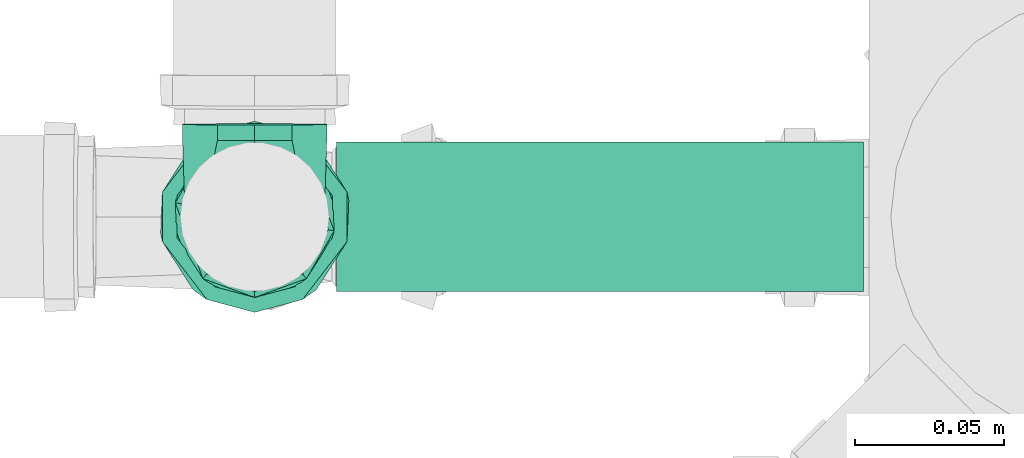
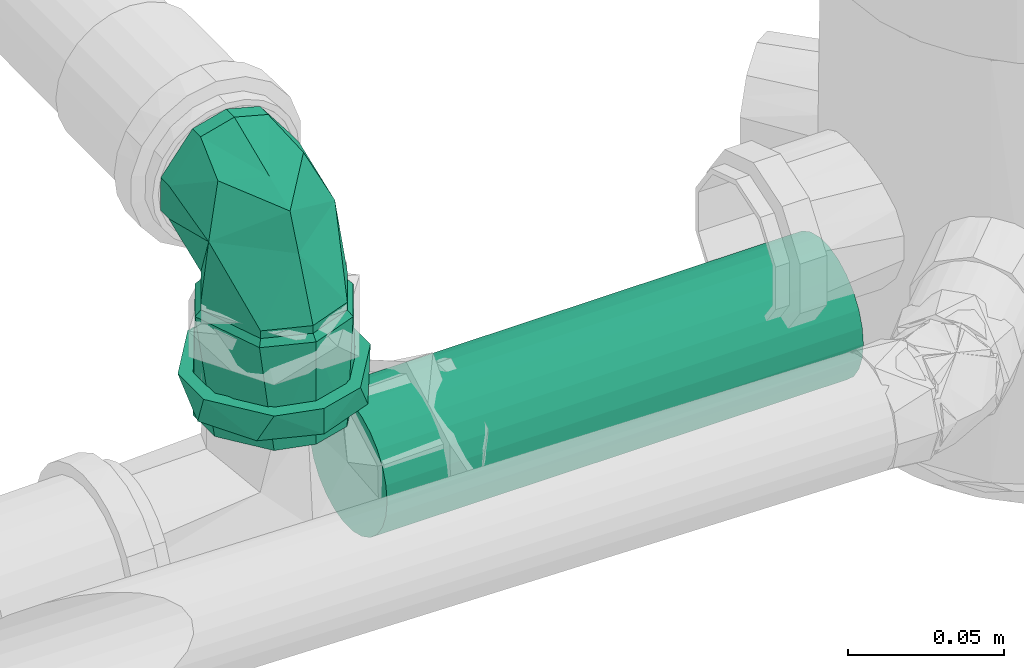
# One storey, part 258 of 589: 1 flow fitting, 1 flow segment.
"""IFC2X3 building model written with IfcOpenShell, lengths in millimetres."""

from ifc_helpers import new_model, entity, si_unit, converted_unit, derived_unit, direction, frame, frame_2d, origin, place, context, subcontext, project, spatial, circle, extrude, faceted_brep, source, transform, mapped, material, type_object, type_shapes, element, save


model = new_model("IFC2X3")

# Units and contexts
model_context = context("Model", 3, precision=0.01, world=origin(), true_north=direction((6.123031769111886e-17, 1.0)))
body_context = subcontext(model_context, "Body", "Model", "MODEL_VIEW")
ifc_project = project(units=[si_unit("LENGTHUNIT", "METRE", prefix="MILLI"), si_unit("AREAUNIT", "SQUARE_METRE"), si_unit("VOLUMEUNIT", "CUBIC_METRE"), converted_unit("PLANEANGLEUNIT", "DEGREE", entity("IfcRatioMeasure", 0.017453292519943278), si_unit("PLANEANGLEUNIT", "RADIAN"), dimensions=[0, 0, 0, 0, 0, 0, 0]), si_unit("MASSUNIT", "GRAM", prefix="KILO"), derived_unit("MASSDENSITYUNIT", [(si_unit("MASSUNIT", "GRAM", prefix="KILO"), 1), (si_unit("LENGTHUNIT", "METRE"), -3)]), derived_unit("IONCONCENTRATIONUNIT", [(si_unit("MASSUNIT", "GRAM", prefix="KILO"), 1), (si_unit("LENGTHUNIT", "METRE"), -3)]), derived_unit("MOMENTOFINERTIAUNIT", [(si_unit("LENGTHUNIT", "METRE"), 4)]), si_unit("TIMEUNIT", "SECOND"), si_unit("FREQUENCYUNIT", "HERTZ"), si_unit("THERMODYNAMICTEMPERATUREUNIT", "DEGREE_CELSIUS"), derived_unit("THERMALTRANSMITTANCEUNIT", [(si_unit("MASSUNIT", "GRAM", prefix="KILO"), 1), (si_unit("THERMODYNAMICTEMPERATUREUNIT", "KELVIN"), -1), (si_unit("TIMEUNIT", "SECOND"), -3)]), derived_unit("THERMALCONDUCTANCEUNIT", [(si_unit("MASSUNIT", "GRAM", prefix="KILO"), 1), (si_unit("THERMODYNAMICTEMPERATUREUNIT", "KELVIN"), -1), (si_unit("TIMEUNIT", "SECOND"), -3), (si_unit("LENGTHUNIT", "METRE"), 1)]), derived_unit("VOLUMETRICFLOWRATEUNIT", [(si_unit("LENGTHUNIT", "METRE"), 3), (si_unit("TIMEUNIT", "SECOND"), -1)]), derived_unit("MASSFLOWRATEUNIT", [(si_unit("MASSUNIT", "GRAM", prefix="KILO"), 1), (si_unit("TIMEUNIT", "SECOND"), -1)]), derived_unit("ROTATIONALFREQUENCYUNIT", [(si_unit("TIMEUNIT", "SECOND"), -1)]), si_unit("ELECTRICCURRENTUNIT", "AMPERE"), si_unit("ELECTRICVOLTAGEUNIT", "VOLT"), si_unit("POWERUNIT", "WATT"), si_unit("FORCEUNIT", "NEWTON", prefix="KILO"), si_unit("ILLUMINANCEUNIT", "LUX"), si_unit("LUMINOUSFLUXUNIT", "LUMEN"), si_unit("LUMINOUSINTENSITYUNIT", "CANDELA"), derived_unit("USERDEFINED", [(si_unit("MASSUNIT", "GRAM", prefix="KILO"), -1), (si_unit("LENGTHUNIT", "METRE"), -2), (si_unit("TIMEUNIT", "SECOND"), 3), (si_unit("LUMINOUSFLUXUNIT", "LUMEN"), 1)]), derived_unit("USERDEFINED", [(si_unit("MASSUNIT", "GRAM", prefix="KILO"), 1), (si_unit("TIMEUNIT", "SECOND"), -3), (si_unit("LENGTHUNIT", "METRE"), 3), (si_unit("ELECTRICCURRENTUNIT", "AMPERE"), -2)]), derived_unit("SOUNDPOWERUNIT", [(si_unit("MASSUNIT", "GRAM", prefix="KILO"), 1), (si_unit("TIMEUNIT", "SECOND"), -3), (si_unit("LENGTHUNIT", "METRE"), 2)]), derived_unit("SOUNDPRESSUREUNIT", [(si_unit("MASSUNIT", "GRAM", prefix="KILO"), 1), (si_unit("LENGTHUNIT", "METRE"), -1), (si_unit("TIMEUNIT", "SECOND"), -2)]), derived_unit("LINEARVELOCITYUNIT", [(si_unit("LENGTHUNIT", "METRE"), 1), (si_unit("TIMEUNIT", "SECOND"), -1)]), si_unit("PRESSUREUNIT", "PASCAL"), derived_unit("USERDEFINED", [(si_unit("MASSUNIT", "GRAM", prefix="KILO"), 1), (si_unit("LENGTHUNIT", "METRE"), -2), (si_unit("TIMEUNIT", "SECOND"), -2)]), derived_unit("LINEARFORCEUNIT", [(si_unit("MASSUNIT", "GRAM", prefix="KILO"), 1), (si_unit("TIMEUNIT", "SECOND"), -2)]), derived_unit("PLANARFORCEUNIT", [(si_unit("MASSUNIT", "GRAM", prefix="KILO"), 1), (si_unit("LENGTHUNIT", "METRE"), -1), (si_unit("TIMEUNIT", "SECOND"), -2)]), derived_unit("SPECIFICHEATCAPACITYUNIT", [(si_unit("THERMODYNAMICTEMPERATUREUNIT", "KELVIN"), -1), (si_unit("LENGTHUNIT", "METRE"), 2), (si_unit("TIMEUNIT", "SECOND"), -2)]), derived_unit("HEATINGVALUEUNIT", [(si_unit("LENGTHUNIT", "METRE"), 2), (si_unit("TIMEUNIT", "SECOND"), -2)]), derived_unit("VAPORPERMEABILITYUNIT", [(si_unit("LENGTHUNIT", "METRE"), -1), (si_unit("TIMEUNIT", "SECOND"), 1)]), derived_unit("DYNAMICVISCOSITYUNIT", [(si_unit("MASSUNIT", "GRAM", prefix="KILO"), 1), (si_unit("TIMEUNIT", "SECOND"), -1), (si_unit("LENGTHUNIT", "METRE"), -1)]), derived_unit("THERMALEXPANSIONCOEFFICIENTUNIT", [(si_unit("THERMODYNAMICTEMPERATUREUNIT", "KELVIN"), -1)]), derived_unit("MODULUSOFELASTICITYUNIT", [(si_unit("MASSUNIT", "GRAM", prefix="KILO"), 1), (si_unit("LENGTHUNIT", "METRE"), -1), (si_unit("TIMEUNIT", "SECOND"), -2)]), derived_unit("ISOTHERMALMOISTURECAPACITYUNIT", [(si_unit("LENGTHUNIT", "METRE"), 3), (si_unit("MASSUNIT", "GRAM", prefix="KILO"), -1)]), derived_unit("MOISTUREDIFFUSIVITYUNIT", [(si_unit("TIMEUNIT", "SECOND"), -1), (si_unit("LENGTHUNIT", "METRE"), 2)])], contexts=[model_context])

# Site, building, storey
site_placement = place(None, origin())
site = spatial("IfcSite", under=ifc_project, at=site_placement, Name="Default", CompositionType="ELEMENT")
building_placement = place(site_placement, origin())
building = spatial("IfcBuilding", under=site, at=building_placement, CompositionType="ELEMENT")
storey_placement = place(building_placement, frame((0.0, 0.0, 100.0)))
storey = spatial("IfcBuildingStorey", under=building, at=storey_placement, Name="TÉRREO", CompositionType="ELEMENT", Elevation=100.0)

# Flow segment
pipe_segment_type = type_object("IfcPipeSegmentType", Name="Tipos de tubos:PVC Esgoto Série Normal", PredefinedType="NOTDEFINED")
flow_segment_placement = place(storey_placement, origin())
element("IfcFlowSegment", 1, at=flow_segment_placement, inside=storey, type_object=pipe_segment_type, Name="Tipos de tubos:PVC Esgoto Série Normal", ObjectType="Tipos de tubos:PVC Esgoto Série Normal", context=body_context, shape_type="SweptSolid", body=[
    extrude(circle(Radius=25.0, at=frame_2d((0.0, -1.6919798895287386e-14), x_axis=(1.0, 0.0))), frame((2348.9296518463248, 3355.620457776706, -219.30453914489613), z_axis=(1.0, 0.0, 0.0), x_axis=(0.0, 1.0, 0.0)), (0.0, 0.0, 1.0), 176.3990755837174),
])

# Flow fitting
ifc_material = material(Name="PVC Série Normal")
pipe_fitting_type = type_object("IfcPipeFittingType", Name="PVC Esgoto_Joelho 45_90_Rodrigo MEP:a. Série Normal", PredefinedType="NOTDEFINED", material=ifc_material)
shared_shape = source(origin(), body_context, "Body", "Brep", [
    faceted_brep([(-6.212752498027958, 25.804714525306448, 24.14814565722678), (-21.392152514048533, 25.95650852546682, 12.500000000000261), (-24.741349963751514, 25.990000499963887, 0.0), (-21.392152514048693, 25.956508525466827, -12.499999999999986), (-6.21275249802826, 25.804714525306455, -24.1481456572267), (6.727552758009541, 25.675311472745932, -24.14814565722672), (21.906952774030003, 25.52351747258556, -12.500000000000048), (25.256150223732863, 25.490025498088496, 0.0), (21.906952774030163, 25.52351747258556, 12.499999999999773), (6.7275527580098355, 25.675311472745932, 24.148145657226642), (25.308147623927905, 30.689765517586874, 0.0), (21.958950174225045, 30.72325749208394, -12.500000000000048), (6.779550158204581, 30.87505149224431, -24.14814565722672), (-6.160755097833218, 31.004454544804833, -24.1481456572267), (-21.34015511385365, 31.156248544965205, -12.499999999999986), (-24.689352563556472, 31.18974051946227, 0.0), (-21.340155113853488, 31.1562485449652, 12.500000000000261), (-6.160755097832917, 31.00445454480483, 24.14814565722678), (6.779550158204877, 30.87505149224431, 24.148145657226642), (21.958950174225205, 30.72325749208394, 12.499999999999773)], [[[0, 1, 2, 3, 4, 5, 6, 7, 8, 9]], [[10, 11, 12, 13, 14, 15, 16, 17, 18, 19]], [[7, 10, 19, 8]], [[8, 19, 18, 9]], [[18, 17, 0, 9]], [[0, 17, 16, 1]], [[1, 16, 15, 2]], [[2, 15, 14, 3]], [[3, 14, 13, 4]], [[13, 12, 5, 4]], [[5, 12, 11, 6]], [[6, 11, 10, 7]]]),
    faceted_brep([(-70.94129996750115, -6.988114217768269, -26.07999730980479), (-70.94129996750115, -6.47047612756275, -24.14814565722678), (-70.94129996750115, 6.4704761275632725, -24.148145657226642), (-70.94129996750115, -23.382685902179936, -13.499999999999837), (-70.94129996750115, 6.988114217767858, -26.0799973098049), (-70.94129996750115, -21.650635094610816, -12.500000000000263), (-70.94129996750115, -25.0, 0.0), (-70.94129996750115, -27.0, 0.0), (-70.94129996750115, -21.650635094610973, 12.499999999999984), (-70.94129996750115, -23.382685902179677, 13.500000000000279), (-70.94129996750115, -6.470476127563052, 24.1481456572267), (-70.94129996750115, -6.98811421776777, 26.079997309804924), (-70.94129996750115, 6.470476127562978, 24.14814565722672), (-70.94129996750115, 6.988114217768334, 26.07999730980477), (-70.94129996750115, 21.650635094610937, 12.500000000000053), (-70.94129996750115, 23.38268590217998, 13.499999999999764), (-70.94129996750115, 27.0, 0.0), (-70.94129996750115, 25.0, 0.0), (-70.94129996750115, 23.382685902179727, -13.500000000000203), (-70.94129996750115, 21.6506350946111, -12.499999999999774), (-30.94129996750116, 21.650635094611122, -12.499999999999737), (-30.94129996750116, 25.0, 0.0), (-30.94129996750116, 6.4704761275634, -24.148145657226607), (-30.94129996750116, -6.470476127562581, -24.148145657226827), (-30.94129996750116, -21.650635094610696, -12.500000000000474), (-30.94129996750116, -25.0, 0.0), (-30.94129996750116, -21.65063509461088, 12.500000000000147), (-30.94129996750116, -6.470476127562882, 24.14814565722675), (-30.94129996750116, 6.470476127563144, 24.148145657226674), (-30.94129996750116, 21.650635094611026, 12.499999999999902), (-30.94129996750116, 27.0, 0.0), (-30.941299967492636, 20.682232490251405, 17.356418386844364), (-30.94129996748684, 4.685536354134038, 26.59033187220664), (-30.94129996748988, -20.686585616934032, 17.35122979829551), (-30.94129996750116, -27.0, 0.0), (-30.941299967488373, -8.000524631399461, 21.970780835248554), (-30.94129996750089, -20.686585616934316, -17.35122979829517), (-30.9412999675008, -4.6922062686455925, -26.589155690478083), (-30.94129996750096, 20.682232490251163, -17.356418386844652), (-30.94129996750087, 7.995013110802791, -21.97278703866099), (-28.74129996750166, -4.338459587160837, -24.62067765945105), (-28.741299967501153, 25.0, 0.0), (-28.741299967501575, 19.154245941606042, -16.065953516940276), (-28.741299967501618, 7.407893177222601, -20.34331558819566), (-28.741299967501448, -19.15021526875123, -16.070757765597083), (-28.741299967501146, -25.0, 0.0), (-28.741299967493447, -19.150215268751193, 16.07075776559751), (-28.741299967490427, -7.402789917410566, 20.345173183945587), (-28.74129996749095, 19.15424594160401, 16.065953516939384), (-28.741299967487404, 4.344635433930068, 24.619588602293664), (-25.741299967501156, 25.0, 0.0), (-25.741299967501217, 19.151286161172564, 16.069481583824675), (-25.741299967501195, 4.341396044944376, 24.62016003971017), (-25.741299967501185, -7.404832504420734, 20.344954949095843), (-25.741299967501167, -19.15106105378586, 16.069749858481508), (-25.741299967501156, -25.0, 0.0), (-25.741299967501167, -19.15106105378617, -16.069749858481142), (-25.741299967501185, -4.341051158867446, -24.62022085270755), (-25.741299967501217, 19.15128616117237, -16.069481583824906), (-25.7412999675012, 7.405117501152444, -20.344851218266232), (-6.212752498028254, 25.80471452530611, -24.1481456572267), (-21.39215251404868, 25.95650852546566, -12.499999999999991), (-24.74134996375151, 25.990000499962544, 0.0), (-21.3921525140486, 25.956508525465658, 12.500000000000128), (-6.2127524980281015, 25.80471452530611, 24.14814565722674), (6.7275527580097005, 25.67531147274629, 24.148145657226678), (21.906952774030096, 25.52351747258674, 12.499999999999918), (25.256150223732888, 25.490025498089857, 0.0), (21.90695277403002, 25.523517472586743, -12.500000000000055), (6.727552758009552, 25.67531147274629, -24.14814565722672), (-0.83580225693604, 1.5246716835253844, 23.354962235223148), (-3.2027279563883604, -15.730161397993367, 0.0), (10.140389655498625, -10.242300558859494, 0.0), (16.135012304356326, 8.632944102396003, 15.848254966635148), (-25.03773742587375, 25.289366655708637, 0.0), (15.761400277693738, 3.0452732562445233, 0.0), (16.135011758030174, 8.632944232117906, -15.848255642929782), (-0.8751695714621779, 1.433288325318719, -23.341145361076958)], [[[0, 1, 2]], [[1, 0, 3]], [[2, 4, 0]], [[3, 5, 1]], [[3, 6, 5]], [[6, 3, 7]], [[8, 6, 7]], [[8, 7, 9]], [[9, 10, 8]], [[9, 11, 10]], [[10, 11, 12]], [[13, 12, 11]], [[13, 14, 12]], [[14, 13, 15]], [[16, 14, 15]], [[17, 14, 16]], [[18, 17, 16]], [[18, 19, 17]], [[19, 18, 4]], [[4, 2, 19]], [[20, 21, 17, 19]], [[22, 20, 19, 2]], [[2, 1, 23, 22]], [[24, 23, 1, 5]], [[25, 24, 5, 6]], [[26, 25, 6, 8]], [[27, 26, 8, 10]], [[10, 12, 28, 27]], [[29, 28, 12, 14]], [[21, 29, 14, 17]], [[16, 15, 30]], [[15, 31, 30]], [[31, 15, 13]], [[31, 13, 32]], [[33, 11, 9]], [[34, 9, 7]], [[11, 33, 35, 32]], [[33, 9, 34]], [[11, 32, 13]], [[7, 3, 34]], [[3, 36, 34]], [[36, 3, 0]], [[36, 0, 37]], [[38, 4, 18]], [[30, 18, 16]], [[4, 38, 39, 37]], [[38, 18, 30]], [[4, 37, 0]], [[28, 29, 21, 20, 22, 23, 24, 25, 26, 27]], [[39, 40, 37]], [[41, 42, 30]], [[30, 42, 38]], [[38, 43, 39]], [[44, 45, 36]], [[38, 42, 43]], [[36, 37, 44]], [[34, 36, 45]], [[40, 39, 43]], [[44, 37, 40]], [[45, 46, 33]], [[33, 34, 45]], [[46, 35, 33]], [[46, 47, 35]], [[47, 32, 35]], [[48, 41, 30]], [[48, 31, 49]], [[31, 48, 30]], [[32, 47, 49]], [[49, 31, 32]], [[41, 48, 50]], [[48, 51, 50]], [[51, 48, 49]], [[51, 49, 52]], [[52, 47, 53]], [[46, 54, 53]], [[46, 45, 54]], [[49, 47, 52]], [[54, 45, 55]], [[47, 46, 53]], [[45, 44, 56]], [[45, 56, 55]], [[56, 44, 57]], [[58, 59, 43]], [[44, 40, 57]], [[40, 59, 57]], [[58, 43, 42]], [[42, 50, 58]], [[50, 42, 41]], [[59, 40, 43]], [[60, 61, 62, 63, 64, 65, 66, 67, 68, 69]], [[52, 70, 51]], [[54, 71, 70]], [[70, 52, 53, 54]], [[72, 73, 70]], [[50, 63, 74]], [[51, 63, 50]], [[54, 55, 71]], [[72, 70, 71]], [[75, 67, 66]], [[65, 70, 73]], [[73, 75, 66]], [[74, 63, 62]], [[73, 66, 65]], [[63, 51, 64]], [[70, 64, 51]], [[73, 72, 75]], [[65, 64, 70]], [[72, 76, 75]], [[71, 55, 56]], [[77, 58, 60]], [[77, 57, 59, 58]], [[77, 71, 56]], [[56, 57, 77]], [[77, 69, 76]], [[58, 50, 61]], [[74, 62, 61]], [[71, 77, 72]], [[61, 60, 58]], [[68, 75, 76]], [[68, 67, 75]], [[72, 77, 76]], [[76, 69, 68]], [[60, 69, 77]], [[61, 50, 74]]]),
    faceted_brep([(-53.94129996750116, 6.9881142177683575, -26.07999730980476), (-53.94129996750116, -6.988114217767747, -26.079997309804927), (-53.94129996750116, -8.282209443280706, -30.909626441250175), (-53.94129996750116, 8.28220944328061, -30.9096264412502), (-53.94129996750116, 23.38268590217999, -13.499999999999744), (-53.94129996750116, -27.712812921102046, -16.0), (-53.94129996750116, -23.38268590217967, -13.500000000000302), (-53.94129996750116, -27.0, 0.0), (-53.94129996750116, -32.0, 0.0), (-53.94129996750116, -23.382685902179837, 13.500000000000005), (-53.94129996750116, -27.712812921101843, 16.0), (-53.94129996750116, -6.988114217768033, 26.07999730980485), (-53.94129996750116, -8.28220944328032, 30.909626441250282), (-53.94129996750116, 6.988114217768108, 26.07999730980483), (-53.94129996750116, 8.282209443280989, 30.909626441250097), (-53.94129996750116, 23.382685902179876, 13.499999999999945), (-53.94129996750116, 27.712812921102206, 16.0), (-53.94129996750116, 32.0, 0.0), (-53.94129996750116, 27.0, 0.0), (-53.94129996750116, 27.712812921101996, -16.0), (-63.94129996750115, 27.0, 0.0), (-65.24129996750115, 27.0, 0.0), (-63.94129996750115, 25.191342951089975, -6.750000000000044), (-63.94129996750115, 23.38268590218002, -13.499999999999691), (-63.94129996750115, 19.284042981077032, -16.644999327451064), (-63.94129996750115, 15.185400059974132, -19.789998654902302), (-63.94129996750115, 11.086757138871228, -22.934997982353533), (-63.94129996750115, 6.988114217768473, -26.07999730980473), (-63.94129996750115, 0.0, -26.079997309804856), (-63.94129996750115, -6.988114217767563, -26.079997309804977), (-63.94129996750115, -11.086757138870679, -22.934997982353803), (-63.94129996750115, -15.185400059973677, -19.789998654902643), (-63.94129996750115, -19.284042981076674, -16.644999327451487), (-63.94129996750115, -23.382685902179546, -13.50000000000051), (-63.94129996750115, -25.191342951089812, -6.750000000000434), (-65.24129996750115, -27.0, 0.0), (-63.94129996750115, -27.0, 0.0), (-63.94129996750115, -25.19134295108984, 6.750000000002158), (-63.94129996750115, -23.382685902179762, 13.500000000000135), (-63.94129996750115, -19.284042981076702, 16.64499932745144), (-63.94129996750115, -15.185400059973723, 19.7899986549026), (-63.94129996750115, -11.086757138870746, 22.934997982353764), (-63.94129996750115, -6.988114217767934, 26.079997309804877), (-63.94129996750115, 0.0, 26.079997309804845), (-63.94129996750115, 6.988114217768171, 26.079997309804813), (-63.94129996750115, 11.086757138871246, 22.93499798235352), (-63.94129996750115, 15.185400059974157, 19.789998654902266), (-63.94129996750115, 19.284042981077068, 16.644999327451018), (-63.94129996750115, 23.382685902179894, 13.499999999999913), (-63.94129996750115, 25.19134295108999, 6.74999999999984), (-63.94129996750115, 32.0, 0.0), (-63.94129996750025, 24.512275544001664, 20.570569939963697), (-63.94129996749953, -5.561133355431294, 31.51307341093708), (-63.94129996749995, -24.51743480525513, 20.56442050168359), (-63.94129996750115, -32.0, 0.0), (-63.9412999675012, -24.51743480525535, -20.564420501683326), (-63.941299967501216, 5.553228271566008, -31.514467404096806), (-63.94129996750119, 24.512275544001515, -20.570569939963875), (-65.2412999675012, -23.84329280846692, -8.675614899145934), (-65.24129996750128, -20.686585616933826, -17.351229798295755), (-65.24129996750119, 23.841116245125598, -8.678209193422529), (-65.24129996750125, 20.6822324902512, -17.356418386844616), (-65.24129996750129, -12.689395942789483, -21.970192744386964), (-65.24129996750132, -4.692206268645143, -26.589155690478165), (-65.24129996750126, 14.338622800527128, -19.664602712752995), (-65.24129996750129, 1.6514034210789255, -24.280971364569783), (-65.24129996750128, 7.995013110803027, -21.97278703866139), (-65.24129996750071, 23.84111624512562, 8.678209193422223), (-65.24129996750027, 20.68223249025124, 17.35641838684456), (-65.24129996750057, -23.843292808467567, 8.675614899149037), (-65.24129996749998, -20.68658561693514, 17.351229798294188), (-65.24129996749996, 12.683884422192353, 21.973375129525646), (-65.24129996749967, 4.685536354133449, 26.590331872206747), (-65.2412999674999, -14.343555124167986, 19.66100531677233), (-65.24129996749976, -1.6574941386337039, 24.280556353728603), (-65.24129996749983, -8.000524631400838, 21.97078083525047)], [[[0, 1, 2]], [[2, 3, 0]], [[4, 0, 3]], [[5, 2, 1]], [[1, 6, 5]], [[6, 7, 5]], [[8, 5, 7]], [[8, 7, 9]], [[10, 8, 9]], [[9, 11, 10]], [[11, 12, 10]], [[13, 12, 11]], [[12, 13, 14]], [[13, 15, 14]], [[16, 14, 15]], [[16, 15, 17]], [[17, 15, 18]], [[18, 4, 19]], [[17, 18, 19]], [[3, 19, 4]], [[4, 18, 20, 21, 22, 23]], [[0, 4, 23, 24, 25, 26, 27]], [[0, 27, 28, 29, 1]], [[6, 1, 29, 30, 31, 32, 33]], [[7, 6, 33, 34, 35, 36]], [[9, 7, 36, 35, 37, 38]], [[11, 9, 38, 39, 40, 41, 42]], [[11, 42, 43, 44, 13]], [[15, 13, 44, 45, 46, 47, 48]], [[18, 15, 48, 49, 21, 20]], [[50, 51, 16]], [[50, 16, 17]], [[16, 51, 14]], [[51, 52, 14]], [[12, 52, 53]], [[10, 53, 54]], [[53, 10, 12]], [[10, 54, 8]], [[52, 12, 14]], [[54, 55, 5]], [[54, 5, 8]], [[5, 55, 2]], [[55, 56, 2]], [[3, 56, 57]], [[19, 57, 50]], [[57, 19, 3]], [[19, 50, 17]], [[56, 3, 2]], [[58, 33, 59]], [[23, 60, 61]], [[32, 31, 59, 33]], [[30, 29, 62, 31]], [[24, 23, 61, 25]], [[29, 28, 63]], [[26, 25, 64]], [[65, 63, 28]], [[31, 62, 59]], [[63, 62, 29]], [[60, 22, 21]], [[34, 58, 35]], [[66, 26, 64]], [[28, 27, 65]], [[27, 66, 65]], [[27, 26, 66]], [[64, 25, 61]], [[34, 33, 58]], [[60, 23, 22]], [[67, 48, 68]], [[38, 69, 70]], [[47, 46, 68, 48]], [[45, 44, 71, 46]], [[39, 38, 70, 40]], [[44, 43, 72]], [[41, 40, 73]], [[74, 72, 43]], [[46, 71, 68]], [[72, 71, 44]], [[69, 37, 35]], [[49, 67, 21]], [[75, 41, 73]], [[43, 42, 74]], [[42, 75, 74]], [[42, 41, 75]], [[73, 40, 70]], [[49, 48, 67]], [[69, 38, 37]], [[54, 35, 58, 59, 55]], [[55, 59, 62, 63]], [[55, 63, 56]], [[57, 61, 60, 21, 50]], [[57, 56, 61]], [[56, 63, 65, 66, 64, 61]], [[50, 21, 67, 68, 51]], [[51, 68, 71, 72]], [[51, 72, 52]], [[53, 70, 69, 35, 54]], [[53, 52, 70]], [[52, 72, 74, 75, 73, 70]]]),
])
type_shapes(pipe_fitting_type, [shared_shape])
flow_fitting_placement = place(storey_placement, frame((2321.535130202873, 3355.6204577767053, -115.0), z_axis=(-1.0, 0.0, 0.0), x_axis=(0.0, 0.0, 1.0)))
element("IfcFlowFitting", 2, at=flow_fitting_placement, inside=storey, type_object=pipe_fitting_type, material=ifc_material, Name="PVC Esgoto_Joelho 45_90_Rodrigo MEP:a. Série Normal", ObjectType="PVC Esgoto_Joelho 45_90_Rodrigo MEP:a. Série Normal", context=body_context, shape_type="MappedRepresentation", body=[
    mapped(shared_shape, transform((0.0, 0.0, 0.0), scale=1.0)),
])

save(model, "model.ifc")
